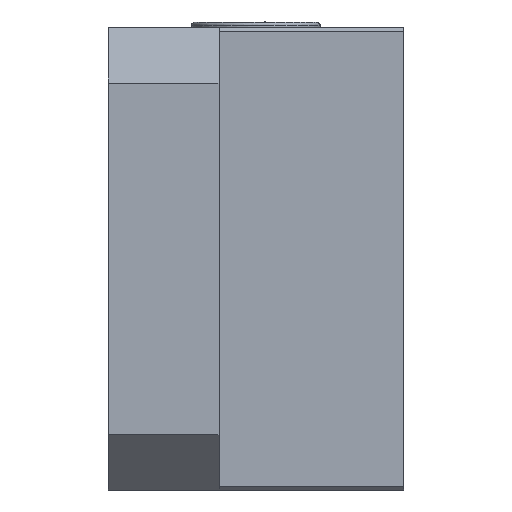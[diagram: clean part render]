
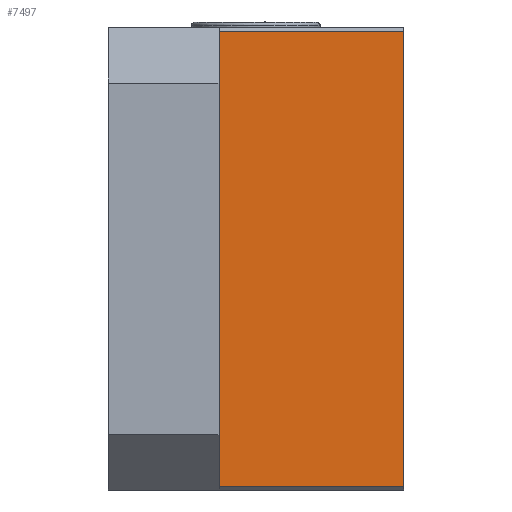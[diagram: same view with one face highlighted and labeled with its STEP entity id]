
A CAD part, left-side view. The second image highlights one B-rep face of the part: STEP entity #7497.
In plain terms, the highlighted planar face has unit normal (-1, 0, 0).
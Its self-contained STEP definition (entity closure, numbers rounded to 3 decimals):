
#661 = VECTOR ( 'NONE', #8627, 1000. ) ;
#878 = CARTESIAN_POINT ( 'NONE',  ( 1.227, 8.911, -12.3 ) ) ;
#1672 = VECTOR ( 'NONE', #11890, 1000. ) ;
#1842 = LINE ( 'NONE', #878, #1672 ) ;
#1924 = EDGE_LOOP ( 'NONE', ( #9190, #4106, #9654, #11424 ) ) ;
#2969 = VECTOR ( 'NONE', #4051, 1000. ) ;
#3008 = LINE ( 'NONE', #4854, #6480 ) ;
#3230 = EDGE_CURVE ( 'NONE', #10500, #8195, #3008, .T. ) ;
#3424 = PLANE ( 'NONE',  #9340 ) ;
#3487 = DIRECTION ( 'NONE',  ( 1., 0., 0. ) ) ;
#3884 = LINE ( 'NONE', #3935, #2969 ) ;
#3935 = CARTESIAN_POINT ( 'NONE',  ( 1.227, 8.911, 12.3 ) ) ;
#4051 = DIRECTION ( 'NONE',  ( 0., 1., 0. ) ) ;
#4106 = ORIENTED_EDGE ( 'NONE', *, *, #5306, .T. ) ;
#4344 = CARTESIAN_POINT ( 'NONE',  ( 1.227, 13.911, 12.3 ) ) ;
#4676 = VERTEX_POINT ( 'NONE', #5075 ) ;
#4854 = CARTESIAN_POINT ( 'NONE',  ( 1.227, 13.911, 0. ) ) ;
#4963 = EDGE_CURVE ( 'NONE', #4676, #10500, #3884, .T. ) ;
#5075 = CARTESIAN_POINT ( 'NONE',  ( 1.227, 3.911, 12.3 ) ) ;
#5306 = EDGE_CURVE ( 'NONE', #10654, #4676, #7653, .T. ) ;
#6480 = VECTOR ( 'NONE', #9438, 1000. ) ;
#7123 = DIRECTION ( 'NONE',  ( 0., 0., -1. ) ) ;
#7497 = ADVANCED_FACE ( 'NONE', ( #11665 ), #3424, .F. ) ;
#7653 = LINE ( 'NONE', #9520, #661 ) ;
#7983 = CARTESIAN_POINT ( 'NONE',  ( 1.227, 3.911, 12.3 ) ) ;
#8195 = VERTEX_POINT ( 'NONE', #8580 ) ;
#8580 = CARTESIAN_POINT ( 'NONE',  ( 1.227, 13.911, -12.3 ) ) ;
#8627 = DIRECTION ( 'NONE',  ( 0., 0., 1. ) ) ;
#9190 = ORIENTED_EDGE ( 'NONE', *, *, #9454, .F. ) ;
#9340 = AXIS2_PLACEMENT_3D ( 'NONE', #7983, #3487, #7123 ) ;
#9438 = DIRECTION ( 'NONE',  ( 0., 0., -1. ) ) ;
#9454 = EDGE_CURVE ( 'NONE', #10654, #8195, #1842, .T. ) ;
#9520 = CARTESIAN_POINT ( 'NONE',  ( 1.227, 3.911, 0. ) ) ;
#9654 = ORIENTED_EDGE ( 'NONE', *, *, #4963, .T. ) ;
#10486 = CARTESIAN_POINT ( 'NONE',  ( 1.227, 3.911, -12.3 ) ) ;
#10500 = VERTEX_POINT ( 'NONE', #4344 ) ;
#10654 = VERTEX_POINT ( 'NONE', #10486 ) ;
#11424 = ORIENTED_EDGE ( 'NONE', *, *, #3230, .T. ) ;
#11665 = FACE_OUTER_BOUND ( 'NONE', #1924, .T. ) ;
#11890 = DIRECTION ( 'NONE',  ( 0., 1., 0. ) ) ;
